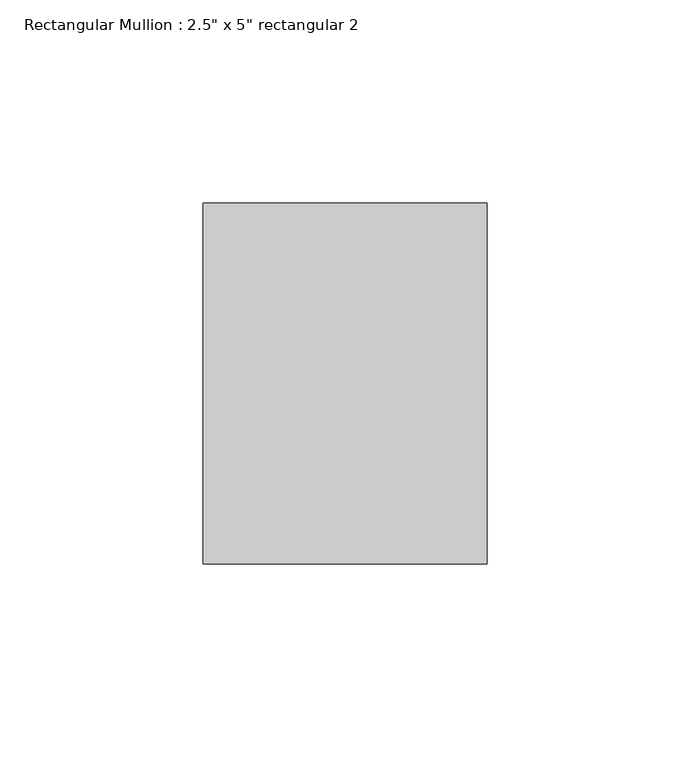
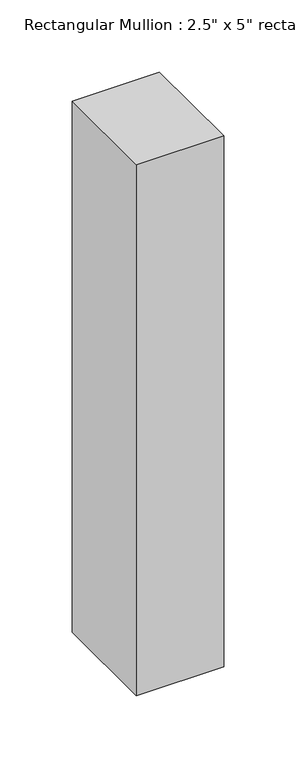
"""IFC4 building model written with IfcOpenShell, lengths in millimetres: member geometry."""

from ifc_helpers import new_model, si_unit, frame, origin, place, context, project, spatial, polyline, outline, extrude, source, transform, mapped, element, save


def member_835f11f8(model_context):
    return source(origin(), model_context, "Body", "SweptSolid", [
        extrude(outline(polyline([(0.0, 44.45), (0.0, -44.45), (-69.85, -44.45), (-69.85, 44.45), (0.0, 44.45)])), frame((0.0, 0.0, -449.44468), z_axis=(0.0, 0.0, 1.0), x_axis=(1.0, 0.0, 0.0)), (0.0, 0.0, 1.0), 449.44468),
    ])


if __name__ == "__main__":
    model = new_model("IFC4")
    model_context = context("Model", 3, world=origin())
    ifc_project = project(units=[si_unit("LENGTHUNIT", "METRE", prefix="MILLI")], contexts=[model_context])
    site = spatial("IfcSite", under=ifc_project)
    building = spatial("IfcBuilding", under=site)
    placement = place(None, origin())
    member_shape = member_835f11f8(model_context)
    element("IfcMember", 1, ObjectType="Rectangular Mullion : 2.5\" x 5\" rectangular 2", at=placement, inside=building, context=model_context, shape_type="MappedRepresentation", body=[
        mapped(member_shape, transform((0.0, 0.0, 0.0), x_axis=(1.0, 0.0, 0.0), y_axis=(0.0, 1.0, 0.0), z_axis=(0.0, 0.0, 1.0))),
    ])
    save(model, "model.ifc")
